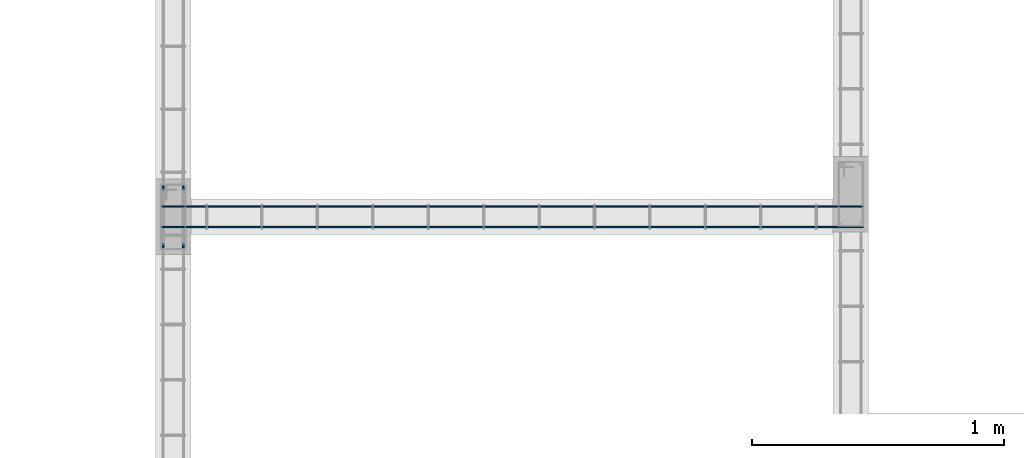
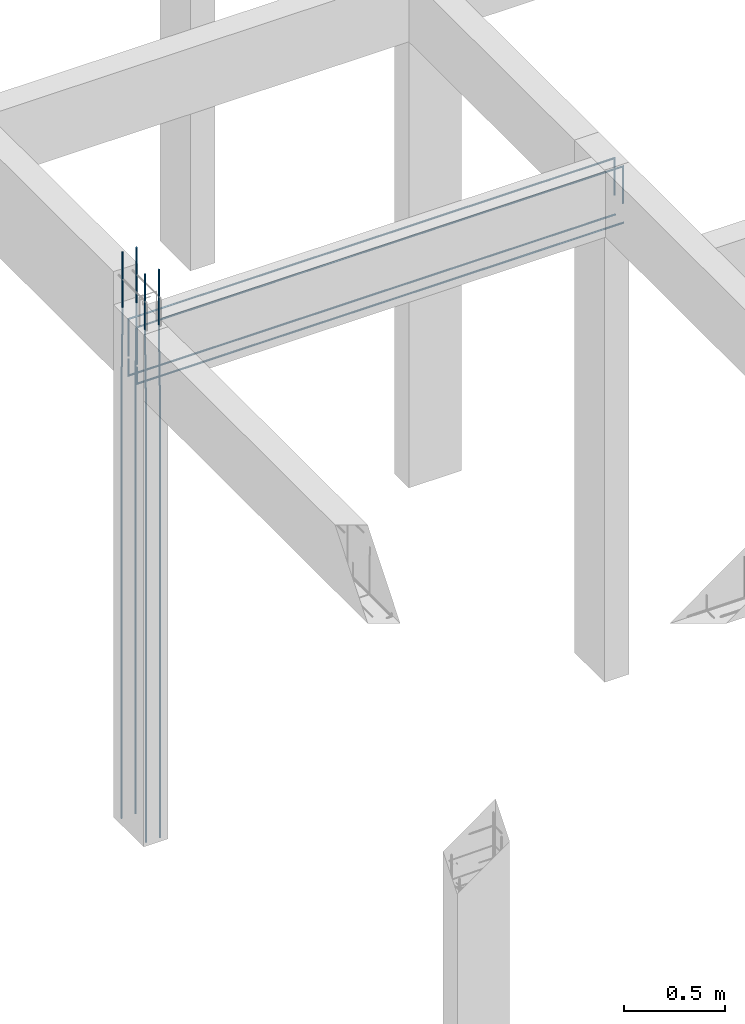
# One storey, part 49 of 236: 8 reinforcing bars.
"""IFC4 building model written with IfcOpenShell, lengths in centimetres."""

import ifcopenshell
import ifcopenshell.guid

model = None  # the IFC model being written
_history = None  # IfcOwnerHistory: only IFC2X3 demands one
_inside = {}  # id of a spatial element -> (the spatial element, [elements in it])
_under = {}  # id of a project, library or spatial element -> (it, [spatial elements below it])
_declared = {}  # id of a project -> (the project, [libraries it declares])
_typed = {}  # id of a type object -> (the type object, [elements of that type])
_made_of = {}  # id of a material, layer set ... -> (it, [elements and type objects made of it])


def new_model(schema):
    """Start an empty IFC model of exactly this schema.

    Asked for "IFC4X3", IfcOpenShell would pick the latest addendum, in which some entities
    have other attributes; the version numbers below select the first issue.
    IFC2X3 requires an IfcOwnerHistory on every rooted entity: one is made here for all.
    """
    global model, _history
    if schema == "IFC4X3":
        model = ifcopenshell.file(schema_version=(4, 3, 0, 0))
    else:
        model = ifcopenshell.file(schema=schema)
    _inside.clear()
    _under.clear()
    _declared.clear()
    _typed.clear()
    _made_of.clear()
    _history = None
    if model.schema == "IFC2X3":
        org = make("IfcOrganization", Name="unknown")
        user = make(
            "IfcPersonAndOrganization",
            ThePerson=make("IfcPerson", FamilyName="unknown"),
            TheOrganization=org,
        )
        app = make(
            "IfcApplication",
            ApplicationDeveloper=org,
            Version="unknown",
            ApplicationFullName="unknown",
            ApplicationIdentifier="unknown",
        )
        _history = make(
            "IfcOwnerHistory",
            OwningUser=user,
            OwningApplication=app,
            ChangeAction="ADDED",
            CreationDate=0,
        )
    return model


def make(cls, **values):
    """One entity of the class cls with the attributes given. An attribute that is None is left unset."""
    return model.create_entity(
        cls, **{name: value for name, value in values.items() if value is not None}
    )


def entity(cls, *values):
    """Any entity or typed value of the class cls, its attributes in the order of the schema. None: left unset."""
    e = model.create_entity(cls)
    for i, value in enumerate(values):
        if value is not None:
            e[i] = value
    return e


def rooted(cls, **values):
    """An entity with a GlobalId (a new one), such as an element, a storey or a relation."""
    return make(cls, GlobalId=ifcopenshell.guid.new(), OwnerHistory=_history, **values)


def si_unit(unit_type, name, prefix=None):
    """IfcSIUnit, for example si_unit("LENGTHUNIT", "METRE", prefix="MILLI")."""
    return make("IfcSIUnit", UnitType=unit_type, Prefix=prefix, Name=name)


def derived_unit(unit_type, elements):
    """IfcDerivedUnit: a product of units, each with its exponent."""
    return make(
        "IfcDerivedUnit",
        Elements=[
            make("IfcDerivedUnitElement", Unit=unit, Exponent=power)
            for unit, power in elements
        ],
        UnitType=unit_type,
    )


def assignment(units):
    """IfcUnitAssignment: the units of a project."""
    return None if units is None else make("IfcUnitAssignment", Units=units)


def point(xyz):
    """IfcCartesianPoint."""
    return None if xyz is None else make("IfcCartesianPoint", Coordinates=xyz)


def direction(xyz):
    """IfcDirection."""
    return None if xyz is None else make("IfcDirection", DirectionRatios=xyz)


def frame(location, z_axis=None, x_axis=None):
    """IfcAxis2Placement3D, a coordinate frame: its origin and axes. An axis left out is left unset."""
    return make(
        "IfcAxis2Placement3D",
        Location=point(location),
        Axis=direction(z_axis),
        RefDirection=direction(x_axis),
    )


def origin_with_axes():
    """The frame at (0, 0, 0) with the z axis (0, 0, 1) and the x axis (1, 0, 0) written out."""
    return frame((0.0, 0.0, 0.0), z_axis=(0.0, 0.0, 1.0), x_axis=(1.0, 0.0, 0.0))


def place(relative_to, where):
    """IfcLocalPlacement: puts the frame where relative to a parent placement (None: the world)."""
    return make(
        "IfcLocalPlacement", PlacementRelTo=relative_to, RelativePlacement=where
    )


def context(
    kind, dimensions, precision=None, world=None, true_north=None, identifier=None
):
    """IfcGeometricRepresentationContext, for example the 3D "Model" context."""
    return make(
        "IfcGeometricRepresentationContext",
        ContextIdentifier=identifier,
        ContextType=kind,
        CoordinateSpaceDimension=dimensions,
        Precision=precision,
        WorldCoordinateSystem=world,
        TrueNorth=true_north,
    )


def project(units=None, contexts=None):
    """IfcProject with its units and contexts."""
    return rooted(
        "IfcProject",
        Name="project",
        RepresentationContexts=contexts,
        UnitsInContext=assignment(units),
    )


def spatial(cls, under=None, at=None, **own):
    """A site, building, storey or space (cls), placed at a placement, below another one or the project."""
    s = rooted(cls, ObjectPlacement=at, **own)
    if under is not None:
        _under.setdefault(under.id(), (under, []))[1].append(s)
    return s


def shape(context_of_items, identifier, shape_type, items):
    """IfcShapeRepresentation: the items that make up one representation, for example the "Body"."""
    return make(
        "IfcShapeRepresentation",
        ContextOfItems=context_of_items,
        RepresentationIdentifier=identifier,
        RepresentationType=shape_type,
        Items=items,
    )


def made_of(thing, what):
    """Note that an element or type object is made of a material, layer set ...; save() writes the relation."""
    if what is not None:
        _made_of.setdefault(what.id(), (what, []))[1].append(thing)
    return thing


def element(
    cls,
    number,
    at=None,
    inside=None,
    cuts=None,
    type_object=None,
    material=None,
    context=None,
    identifier="Body",
    shape_type=None,
    held_by="IfcProductDefinitionShape",
    body=None,
    shapes=None,
    **own,
):
    """One element of the class cls, such as IfcWall. Its Tag is "e" and its number.

    at: its placement. inside: the storey or other place that contains it. cuts: it is an
    opening in that element (IfcRelVoidsElement). A single representation is given by context,
    identifier, shape_type and body (its items); several are given by shapes. held_by: the class
    of the entity that holds the representations. save() writes the other relations.
    """
    e = rooted(cls, Tag="e%d" % number, ObjectPlacement=at, **own)
    if body is not None:
        shapes = [shape(context, identifier, shape_type, body)]
    if shapes is not None:
        e.Representation = make(held_by, Representations=shapes)
    if inside is not None:
        _inside.setdefault(inside.id(), (inside, []))[1].append(e)
    if cuts is not None:
        rooted(
            "IfcRelVoidsElement", RelatingBuildingElement=cuts, RelatedOpeningElement=e
        )
    if type_object is not None:
        _typed.setdefault(type_object.id(), (type_object, []))[1].append(e)
    return made_of(e, material)


def aggregate(whole, parts):
    """IfcRelAggregates: a whole, such as a stair, and the parts it consists of."""
    return rooted("IfcRelAggregates", RelatingObject=whole, RelatedObjects=parts)


def save(model, path):
    """Write the relations noted so far, then the file.

    IfcRelAggregates (storeys below a building ...), IfcRelContainedInSpatialStructure (elements
    in a storey), IfcRelDefinesByType, IfcRelAssociatesMaterial and IfcRelDeclares: one each for
    every whole, place, type object, material and project.
    """
    for whole, parts in _under.values():
        aggregate(whole, parts)
    for where, things in _inside.values():
        rooted(
            "IfcRelContainedInSpatialStructure",
            RelatedElements=things,
            RelatingStructure=where,
        )
    for kind, things in _typed.values():
        rooted("IfcRelDefinesByType", RelatedObjects=things, RelatingType=kind)
    for what, things in _made_of.values():
        rooted("IfcRelAssociatesMaterial", RelatedObjects=things, RelatingMaterial=what)
    for by, libraries in _declared.values():
        rooted("IfcRelDeclares", RelatingContext=by, RelatedDefinitions=libraries)
    model.write(path)


model = new_model("IFC4")

# Units and contexts
model_context = context("Model", 3, precision=1e-05, world=origin_with_axes(), identifier="Body")
ifc_project = project(units=[si_unit("LENGTHUNIT", "METRE", prefix="CENTI"), si_unit("VOLUMEUNIT", "CUBIC_METRE"), si_unit("AREAUNIT", "SQUARE_METRE"), si_unit("POWERUNIT", "WATT"), si_unit("LUMINOUSFLUXUNIT", "LUMEN"), si_unit("ELECTRICCURRENTUNIT", "AMPERE"), si_unit("PRESSUREUNIT", "PASCAL", prefix="KILO"), si_unit("MASSUNIT", "GRAM", prefix="KILO"), si_unit("PLANEANGLEUNIT", "RADIAN"), derived_unit("VOLUMETRICFLOWRATEUNIT", [(si_unit("LENGTHUNIT", "METRE"), 3), (si_unit("TIMEUNIT", "SECOND"), -1)])], contexts=[model_context])

# Site, building, storey
site_placement = place(None, frame((-4000.0, 0.0, 0.0), z_axis=(0.0, 0.0, 1.0), x_axis=(1.0, 0.0, 0.0)))
site = spatial("IfcSite", under=ifc_project, at=site_placement, Name="PADRÃO")
building_placement = place(site_placement, frame((0.0, 0.0, -14.0)))
building = spatial("IfcBuilding", under=site, at=building_placement, Name="CRECHE PRÉ-ESCOLA TIPO 2")
placement_1 = place(building_placement, origin_with_axes())
placement_2 = place(placement_1, frame((0.0, 0.0, 30.0), z_axis=(0.0, 0.0, 1.0), x_axis=(1.0, 0.0, 0.0)))
storey_placement = place(placement_2, frame((0.0, 0.0, 310.0), z_axis=(0.0, 0.0, 1.0), x_axis=(1.0, 0.0, 0.0)))
storey = spatial("IfcBuildingStorey", under=building, at=storey_placement, Name="TERREO", CompositionType="ELEMENT", Elevation=326.0)

# Reinforcing bars
reinforcing_bar_1_placement = place(storey_placement, frame((2250.49, 821.02, 33.3573001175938), z_axis=(0.0, 0.0, 1.0), x_axis=(1.0, 0.0, 0.0)))
element("IfcReinforcingBar", 1, at=reinforcing_bar_1_placement, inside=storey, Name="P128 - Longitudinal", BarLength=0.0, CrossSectionArea=7.853981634e-05, NominalDiameter=1.0, PredefinedType="MAIN", context=model_context, shape_type="AdvancedSweptSolid", body=[
    entity("IfcSweptDiskSolid", entity("IfcCompositeCurve", [entity("IfcCompositeCurveSegment", "CONTINUOUS", True, entity("IfcPolyline", [entity("IfcCartesianPoint", [0.0, -0.5, -343.357300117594]), entity("IfcCartesianPoint", [0.0, -0.5, -73.3573001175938])])), entity("IfcCompositeCurveSegment", "CONTINUOUS", True, entity("IfcPolyline", [entity("IfcCartesianPoint", [0.0, -0.5, -73.3573001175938]), entity("IfcCartesianPoint", [0.0, 0.5, -33.3573001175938])])), entity("IfcCompositeCurveSegment", "CONTINUOUS", True, entity("IfcPolyline", [entity("IfcCartesianPoint", [0.0, 0.5, -33.3573001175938]), entity("IfcCartesianPoint", [0.0, 0.5, 0.0])]))], False), 0.5),
])
for number, where, z_axis, x_axis, name in (
    (2, (2258.49, 844.02, 33.3573001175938), (0.0, 0.0, 1.0), (1.0, 0.0, 0.0), "P128 - Longitudinal"),
    (3, (2250.49, 844.02, 33.3573001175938), (0.0, 0.0, 1.0), (1.0, 0.0, 0.0), "P128 - Longitudinal"),
):
    element("IfcReinforcingBar", number, at=place(storey_placement, frame(where, z_axis=z_axis, x_axis=x_axis)), inside=storey, Name=name, BarLength=0.0, CrossSectionArea=7.853981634e-05, NominalDiameter=1.0, PredefinedType="MAIN", context=model_context, shape_type="AdvancedSweptSolid", body=[
        entity("IfcSweptDiskSolid", entity("IfcCompositeCurve", [entity("IfcCompositeCurveSegment", "CONTINUOUS", True, entity("IfcPolyline", [entity("IfcCartesianPoint", [0.0, 0.5, -343.357300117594]), entity("IfcCartesianPoint", [0.0, 0.5, -73.3573001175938])])), entity("IfcCompositeCurveSegment", "CONTINUOUS", True, entity("IfcPolyline", [entity("IfcCartesianPoint", [0.0, 0.5, -73.3573001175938]), entity("IfcCartesianPoint", [0.0, -0.5, -33.3573001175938])])), entity("IfcCompositeCurveSegment", "CONTINUOUS", True, entity("IfcPolyline", [entity("IfcCartesianPoint", [0.0, -0.5, -33.3573001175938]), entity("IfcCartesianPoint", [0.0, -0.5, 0.0])]))], False), 0.5),
    ])
reinforcing_bar_2_placement = place(storey_placement, frame((2258.49, 821.02, 33.3573001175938), z_axis=(0.0, 0.0, 1.0), x_axis=(1.0, 0.0, 0.0)))
element("IfcReinforcingBar", 4, at=reinforcing_bar_2_placement, inside=storey, Name="P128 - Longitudinal", BarLength=0.0, CrossSectionArea=7.853981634e-05, NominalDiameter=1.0, PredefinedType="MAIN", context=model_context, shape_type="AdvancedSweptSolid", body=[
    entity("IfcSweptDiskSolid", entity("IfcCompositeCurve", [entity("IfcCompositeCurveSegment", "CONTINUOUS", True, entity("IfcPolyline", [entity("IfcCartesianPoint", [0.0, -0.5, -343.357300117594]), entity("IfcCartesianPoint", [0.0, -0.5, -73.3573001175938])])), entity("IfcCompositeCurveSegment", "CONTINUOUS", True, entity("IfcPolyline", [entity("IfcCartesianPoint", [0.0, -0.5, -73.3573001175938]), entity("IfcCartesianPoint", [0.0, 0.5, -33.3573001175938])])), entity("IfcCompositeCurveSegment", "CONTINUOUS", True, entity("IfcPolyline", [entity("IfcCartesianPoint", [0.0, 0.5, -33.3573001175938]), entity("IfcCartesianPoint", [0.0, 0.5, 0.0])]))], False), 0.5),
])
for number, where, z_axis, x_axis, name in (
    (5, (2388.9931248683, 828.42, -27.1), (0.0, 0.0, 1.0), (1.0, 0.0, 0.0), "V250 - Longitudinal inferior"),
    (6, (2388.9931248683, 836.62, -27.1), (0.0, 0.0, 1.0), (1.0, 0.0, 0.0), "V250 - Longitudinal inferior"),
):
    element("IfcReinforcingBar", number, at=place(storey_placement, frame(where, z_axis=z_axis, x_axis=x_axis)), inside=storey, Name=name, BarLength=0.0, CrossSectionArea=5.0265482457e-05, NominalDiameter=0.8, PredefinedType="MAIN", context=model_context, shape_type="AdvancedSweptSolid", body=[
        entity("IfcSweptDiskSolid", entity("IfcCompositeCurve", [entity("IfcCompositeCurveSegment", "CONTINUOUS", True, entity("IfcPolyline", [entity("IfcCartesianPoint", [-139.1031248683, 0.0, 0.0]), entity("IfcCartesianPoint", [-139.1031248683, 0.0, -10.0])])), entity("IfcCompositeCurveSegment", "CONTINUOUS", True, entity("IfcPolyline", [entity("IfcCartesianPoint", [-139.1031248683, 0.0, -10.0]), entity("IfcCartesianPoint", [139.5068751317, 0.0, -10.0])]))], False), 0.4),
    ])
for number, where, z_axis, x_axis, name in (
    (7, (2388.995, 836.62, -2.49624973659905), (0.0, 0.0, 1.0), (1.0, 0.0, 0.0), "V250 - Longitudinal superior"),
    (8, (2388.995, 828.42, -2.49624973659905), (0.0, 0.0, 1.0), (1.0, 0.0, 0.0), "V250 - Longitudinal superior"),
):
    element("IfcReinforcingBar", number, at=place(storey_placement, frame(where, z_axis=z_axis, x_axis=x_axis)), inside=storey, Name=name, BarLength=0.0, CrossSectionArea=5.0265482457e-05, NominalDiameter=0.8, PredefinedType="MAIN", context=model_context, shape_type="AdvancedSweptSolid", body=[
        entity("IfcSweptDiskSolid", entity("IfcCompositeCurve", [entity("IfcCompositeCurveSegment", "CONTINUOUS", True, entity("IfcPolyline", [entity("IfcCartesianPoint", [-139.105, 0.0, -22.7014629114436]), entity("IfcCartesianPoint", [-139.105, 0.0, -0.403750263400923])])), entity("IfcCompositeCurveSegment", "CONTINUOUS", True, entity("IfcPolyline", [entity("IfcCartesianPoint", [-139.105, 0.0, -0.403750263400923]), entity("IfcCartesianPoint", [139.105, 0.0, -0.403750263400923])])), entity("IfcCompositeCurveSegment", "CONTINUOUS", True, entity("IfcPolyline", [entity("IfcCartesianPoint", [139.105, 0.0, -0.403750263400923]), entity("IfcCartesianPoint", [139.105, 0.0, -22.7014629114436])]))], False), 0.4),
    ])

save(model, "model.ifc")
